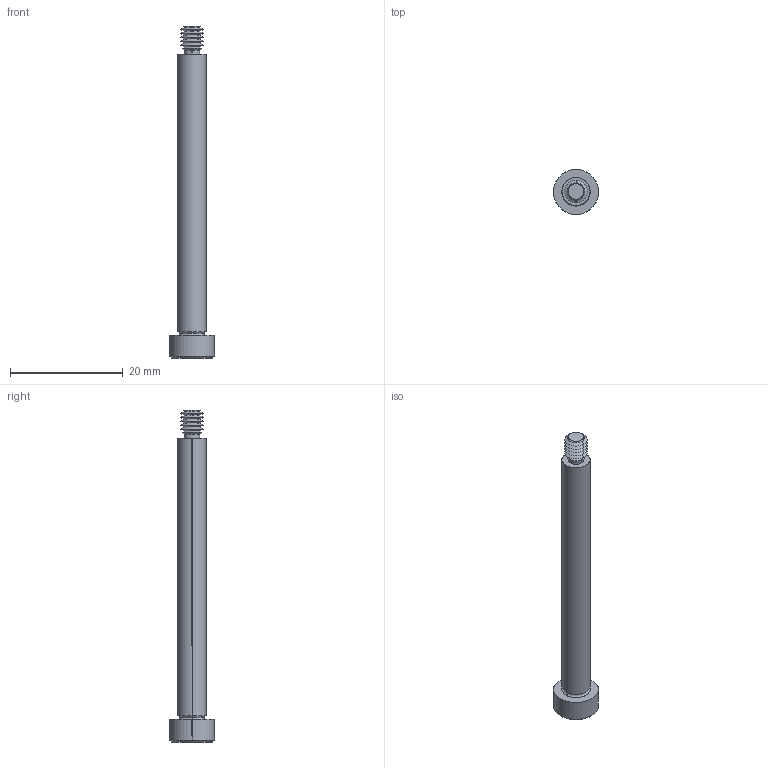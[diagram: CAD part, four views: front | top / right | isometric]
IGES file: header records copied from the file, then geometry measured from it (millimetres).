
Start section: SolidWorks IGES file using analytic representation for surfaces
Global section: file name: C:\Users\IanO\Documents\Temp Folder\GENERAL\SCREW REVISION\P0130_v2\P0130.T5_v2_20220106_IGES\P0130.050-050-T5.igs; native system: SolidWorks 2019; preprocessor: SolidWorks 2019; author: IanO; date: 220106.221914; units: millimetre
Bounding box: 8 x 8 x 59 mm (x, y, z)
Surface area: 1101.4 mm2 (no closed solid volume)
Topology: 0 solids, 0 shells, 64 faces, 504 edges, 502 vertices
Faces by surface type: revolution 44, bspline 20
